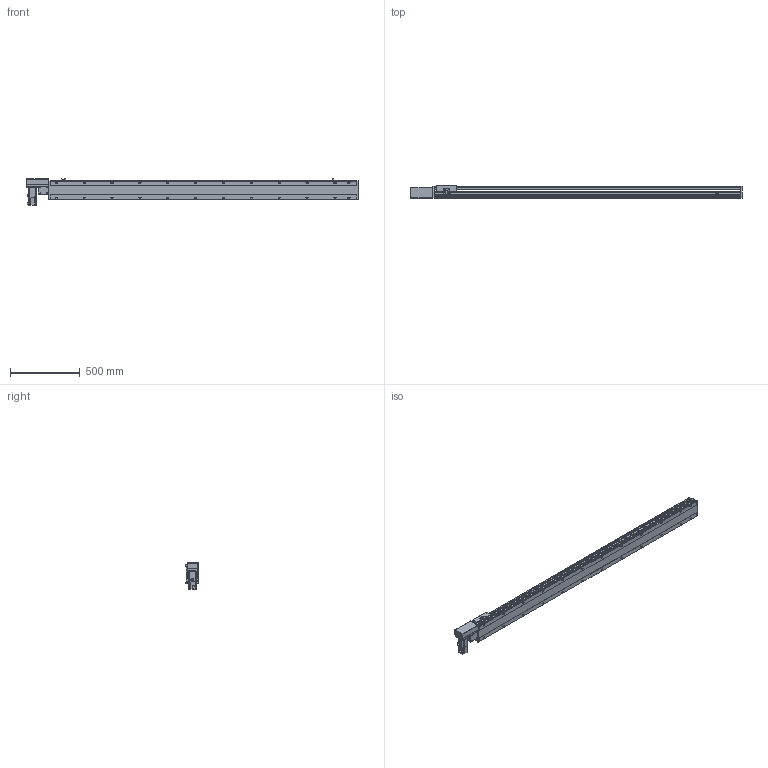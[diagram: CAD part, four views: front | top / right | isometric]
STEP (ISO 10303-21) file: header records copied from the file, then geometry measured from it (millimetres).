
FILE_DESCRIPTION(/* description */ ('STEP AP214'),/* implementation_level */ '2;1');
FILE_NAME(/* name */ 'PBS140S-P40-S1950-R-T40-C1-N(0)',/* time_stamp */ '2022-06-09T02:18:22+02:00',/* author */ ('License CC BY-ND 4.0'),/* organization */ ('CADENAS'),/* preprocessor_version */ 'ST-DEVELOPER v18.102',/* originating_system */ 'PARTsolutions',/* authorisation */ ' ');
FILE_SCHEMA (('AUTOMOTIVE_DESIGN {1 0 10303 214 3 1 1}'));
Length unit declared in the file: millimetre
Products named in the file (7): PBS140S-P40-S1950-R-T40-C1-N(0); PBS140S_sensor; PBS140S_plant; PBS140S_sliser; T40-p1; PBS140ST-R_motors; PBS140S-S1950()_body
Assembly tree (8 placements, depth 2):
  PBS140S-P40-S1950-R-T40-C1-N(0)
    PBS140S_sensor  x3
    PBS140S_plant
    PBS140S_sliser
    T40-p1
    PBS140ST-R_motors
    PBS140S-S1950()_body
Bounding box: 2383 x 93 x 189.7 mm (x, y, z)
Volume: 11364875.7 mm3; surface area: 1927254.1 mm2
Topology: 8 solids, 8 shells, 1163 faces, 3071 edges, 2009 vertices
Faces by surface type: plane 726, cylinder 377, cone 50, sphere 8, torus 2
Full cylindrical faces by diameter (mm): 3.242 x4, 4 x2, 4.134 x4, 4.4 x8, 4.5 x2, 4.8 x4, 4.917 x32, 5.5 x7, 6 x2, 7 x26, 7.5 x8, 8 x12, 8.5 x4, 10.5 x24, 14 x1, 30 x2, 50 x2
Entity records: 33328 total; most frequent: CARTESIAN_POINT 6264, DIRECTION 5628, ORIENTED_EDGE 5302, EDGE_CURVE 2651, AXIS2_PLACEMENT_3D 1979, VERTEX_POINT 1849, LINE 1670, VECTOR 1670
